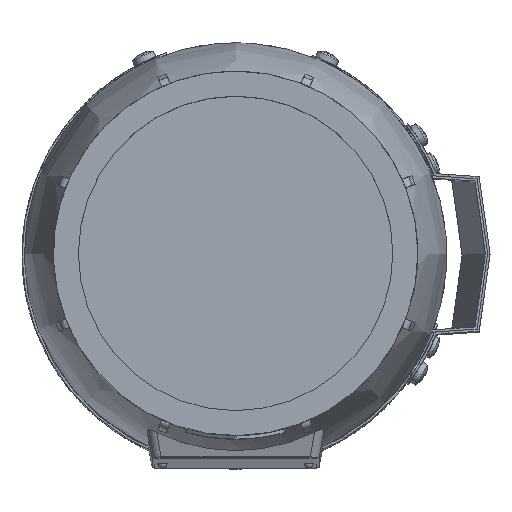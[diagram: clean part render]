
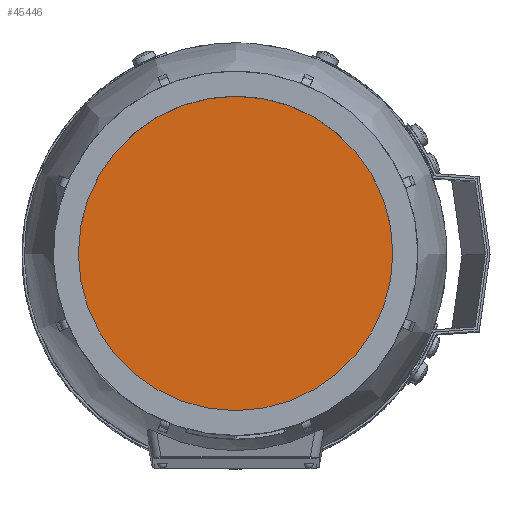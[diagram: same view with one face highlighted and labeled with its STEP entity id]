
A CAD part, top view. The second image highlights one B-rep face of the part: STEP entity #45446.
In plain terms, the highlighted planar face has unit normal (0, 0, 1) as drawn and (0, 1, 0) by its records, which use the part's own axes.
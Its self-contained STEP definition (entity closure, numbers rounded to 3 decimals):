
#9525=ORIENTED_EDGE('',*,*,#23263,.F.);
#23263=EDGE_CURVE('',#30132,#30132,#34759,.T.);
#30132=VERTEX_POINT('',#65582);
#34759=CIRCLE('',#47934,67.736);
#36835=EDGE_LOOP('',(#9525));
#40143=FACE_BOUND('',#36835,.T.);
#43469=PLANE('',#47933);
#45446=ADVANCED_FACE('',(#40143),#43469,.F.);
#47933=AXIS2_PLACEMENT_3D('',#65580,#52421,#52422);
#47934=AXIS2_PLACEMENT_3D('',#65581,#52423,#52424);
#52421=DIRECTION('',(0.,-1.,0.));
#52422=DIRECTION('',(0.,0.,-1.));
#52423=DIRECTION('',(0.,-1.,0.));
#52424=DIRECTION('',(0.,0.,-1.));
#65580=CARTESIAN_POINT('',(0.,154.,0.));
#65581=CARTESIAN_POINT('',(0.,154.,0.));
#65582=CARTESIAN_POINT('',(0.,154.,-67.736));
